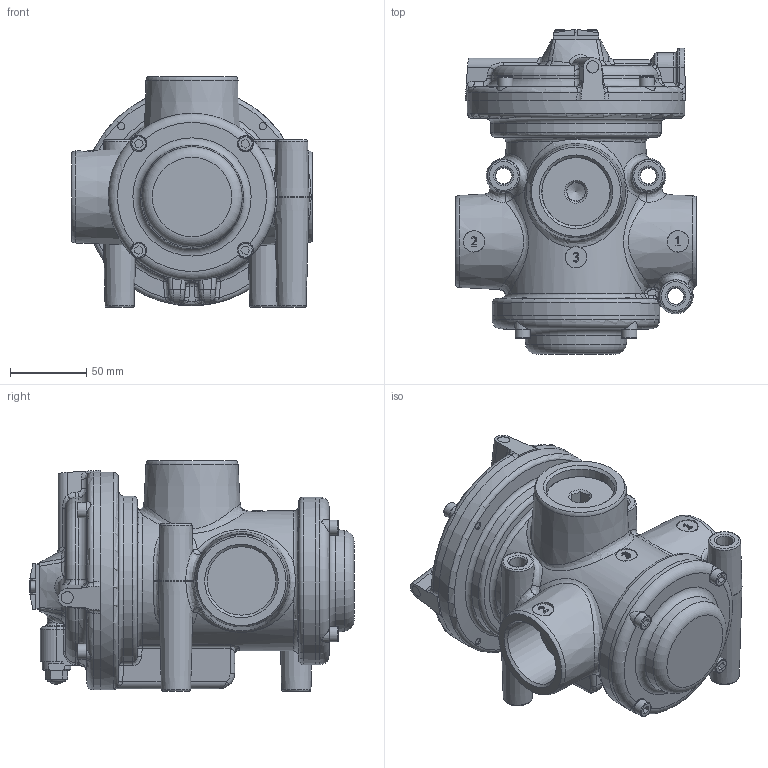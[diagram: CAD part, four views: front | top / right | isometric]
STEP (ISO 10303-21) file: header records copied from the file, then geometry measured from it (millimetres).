
FILE_DESCRIPTION(/* description */ ('EV.X VUOTO 2/2 PNEUM - MOLLA NC'),/* implementation_level */ '2;1');
FILE_NAME(/* name */ 'C:\PNX_VAULTFOLDER\Area Tecnica\Disegni\VARIE-3D\Componenti\1900 (vuoto)\N776-V_22_11_1C.stp',/* time_stamp */ '2018-06-18T15:51:32+02:00',/* author */ ('maniean1'),/* organization */ ('Pneumax S.p.A.'),/* preprocessor_version */ 'ST-DEVELOPER v16.5',/* originating_system */ 'Autodesk Inventor 2017',/* authorisation */ '');
FILE_SCHEMA (('AUTOMOTIVE_DESIGN { 1 0 10303 214 3 1 1 }'));
Length unit declared in the file: millimetre
Products named in the file (1): N776/V.22.11.1C
Bounding box: 158 x 213 x 151.5 mm (x, y, z)
Volume: 1913185.5 mm3; surface area: 174986.6 mm2
Topology: 1 solids, 23 shells, 991 faces, 2444 edges, 1539 vertices
Faces by surface type: plane 395, cylinder 227, bspline 194, cone 97, torus 68, sphere 10
Full cylindrical faces by diameter (mm): 2.2 x2, 2.5 x2, 3.242 x2, 4 x4, 4.2 x2, 4.917 x8, 6 x10, 6.8 x2, 7 x4, 8 x6, 8.566 x1, 8.68 x1, 10 x8, 12 x1, 14 x3, 18 x1, 19 x1, 37.8 x1, 40 x1, 44 x1, 45 x4, 100 x1, 110 x2, 143 x1
Entity records: 37029 total; most frequent: CARTESIAN_POINT 14699, ORIENTED_EDGE 4350, DIRECTION 4142, EDGE_CURVE 2175, AXIS2_PLACEMENT_3D 1613, VERTEX_POINT 1447, EDGE_LOOP 1236, FACE_OUTER_BOUND 990
